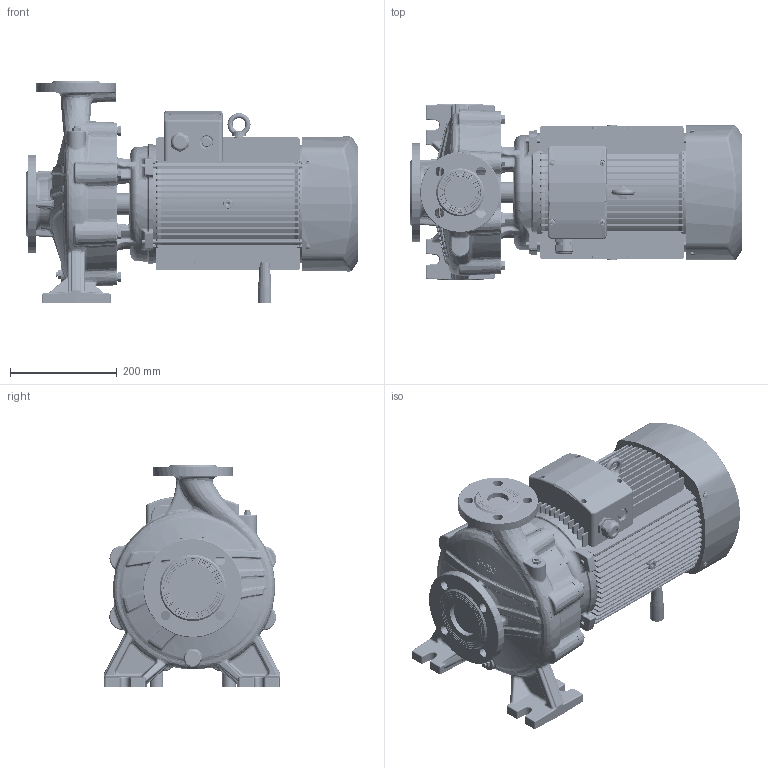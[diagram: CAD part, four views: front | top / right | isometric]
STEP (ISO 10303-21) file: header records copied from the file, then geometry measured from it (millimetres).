
FILE_DESCRIPTION (( 'STEP AP203' ), '1' );
FILE_NAME ('TST40-250-11 15 安装尺寸图.STEP', '2026-04-27T05:59:06', ( '微软用户' ), ( '微软中国' ), 'SwSTEP 2.0', 'SolidWorks 2020', '' );
FILE_SCHEMA (( 'CONFIG_CONTROL_DESIGN' ));
Products named in the file (1): TST40-250-11 15 假蚾喜渡芞
Bounding box: 621.5 x 330.62 x 415.14 mm (x, y, z)
Volume: 29489048.4 mm3; surface area: 1572977.5 mm2
Topology: 1 solids, 9 shells, 4912 faces, 12065 edges, 7432 vertices
Faces by surface type: plane 1510, cylinder 1438, bspline 1019, cone 463, torus 424, sphere 58
Entity records: 207074 total; most frequent: CARTESIAN_POINT 98425, ORIENTED_EDGE 23876, DIRECTION 21271, EDGE_CURVE 11938, AXIS2_PLACEMENT_3D 8671, VERTEX_POINT 7431, EDGE_LOOP 5367, ADVANCED_FACE 4912
